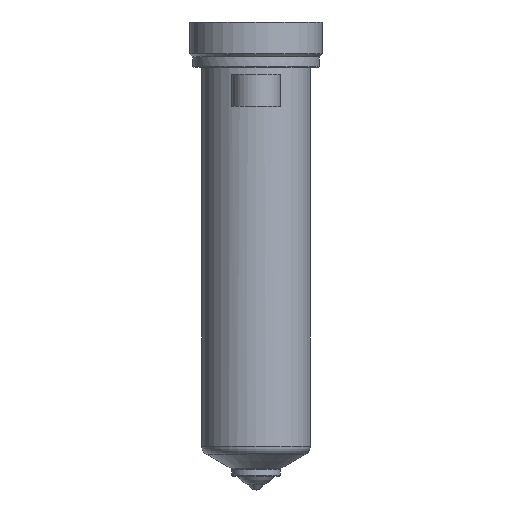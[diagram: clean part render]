
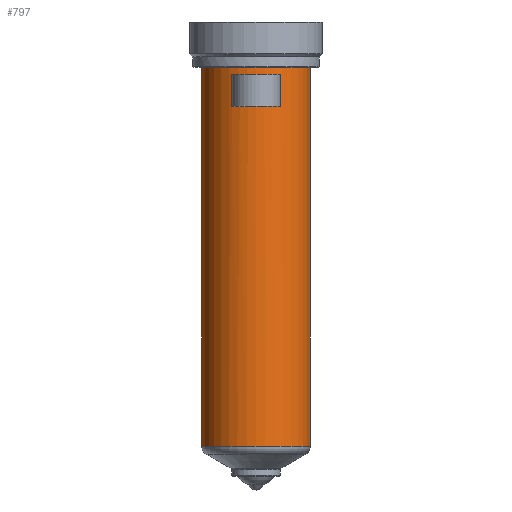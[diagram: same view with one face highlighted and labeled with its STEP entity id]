
A CAD part, top view. The second image highlights one B-rep face of the part: STEP entity #797.
In plain terms, the highlighted cylindrical face has radius 18 mm (diameter 36 mm), a partial arc.
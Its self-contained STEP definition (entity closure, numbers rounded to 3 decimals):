
#187=DIRECTION('',(0.,-1.,0.));
#188=VECTOR('',#187,125.506);
#189=CARTESIAN_POINT('',(18.,0.,0.));
#190=LINE('',#189,#188);
#191=CARTESIAN_POINT('',(0.,-125.506,0.));
#192=DIRECTION('',(0.,1.,0.));
#193=DIRECTION('',(-1.,0.,0.));
#194=AXIS2_PLACEMENT_3D('',#191,#192,#193);
#196=DIRECTION('',(0.,1.,0.));
#197=VECTOR('',#196,125.506);
#198=CARTESIAN_POINT('',(-18.,-125.506,0.));
#199=LINE('',#198,#197);
#200=CARTESIAN_POINT('',(0.,0.,0.));
#201=DIRECTION('',(0.,1.,0.));
#202=DIRECTION('',(-1.,0.,0.));
#203=AXIS2_PLACEMENT_3D('',#200,#201,#202);
#367=DIRECTION('',(0.,-1.,0.));
#368=VECTOR('',#367,10.5);
#369=CARTESIAN_POINT('',(-8.,-2.5,16.125));
#370=LINE('',#369,#368);
#371=CARTESIAN_POINT('',(0.,-13.,0.));
#372=DIRECTION('',(0.,1.,0.));
#373=DIRECTION('',(-0.444,0.,0.896));
#374=AXIS2_PLACEMENT_3D('',#371,#372,#373);
#397=CARTESIAN_POINT('',(0.,-2.5,0.));
#398=DIRECTION('',(0.,-1.,0.));
#399=DIRECTION('',(0.444,0.,0.896));
#400=AXIS2_PLACEMENT_3D('',#397,#398,#399);
#415=DIRECTION('',(0.,-1.,0.));
#416=VECTOR('',#415,10.5);
#417=CARTESIAN_POINT('',(8.,-2.5,16.125));
#418=LINE('',#417,#416);
#476=CARTESIAN_POINT('',(-18.,0.,0.));
#477=CARTESIAN_POINT('',(18.,0.,0.));
#478=VERTEX_POINT('',#476);
#479=VERTEX_POINT('',#477);
#488=CARTESIAN_POINT('',(-8.,-2.5,16.125));
#489=VERTEX_POINT('',#488);
#490=CARTESIAN_POINT('',(8.,-2.5,16.125));
#491=VERTEX_POINT('',#490);
#524=CARTESIAN_POINT('',(18.,-125.506,0.));
#525=VERTEX_POINT('',#524);
#534=CARTESIAN_POINT('',(-18.,-125.506,0.));
#535=VERTEX_POINT('',#534);
#556=CARTESIAN_POINT('',(-8.,-13.,16.125));
#557=CARTESIAN_POINT('',(8.,-13.,16.125));
#558=VERTEX_POINT('',#556);
#559=VERTEX_POINT('',#557);
#775=CARTESIAN_POINT('',(0.,16.4,0.));
#776=DIRECTION('',(0.,-1.,0.));
#777=DIRECTION('',(-1.,0.,0.));
#778=AXIS2_PLACEMENT_3D('',#775,#776,#777);
#779=CYLINDRICAL_SURFACE('',#778,18.);
#780=ORIENTED_EDGE('',*,*,#769,.T.);
#782=ORIENTED_EDGE('',*,*,#781,.F.);
#783=ORIENTED_EDGE('',*,*,#765,.T.);
#784=ORIENTED_EDGE('',*,*,#755,.T.);
#785=EDGE_LOOP('',(#780,#782,#783,#784));
#786=FACE_OUTER_BOUND('',#785,.F.);
#788=ORIENTED_EDGE('',*,*,#787,.T.);
#790=ORIENTED_EDGE('',*,*,#789,.T.);
#792=ORIENTED_EDGE('',*,*,#791,.F.);
#794=ORIENTED_EDGE('',*,*,#793,.T.);
#795=EDGE_LOOP('',(#788,#790,#792,#794));
#796=FACE_BOUND('',#795,.F.);
#797=ADVANCED_FACE('',(#786,#796),#779,.T.);
#195=CIRCLE('',#194,18.);
#204=CIRCLE('',#203,18.);
#375=CIRCLE('',#374,18.);
#401=CIRCLE('',#400,18.);
#755=EDGE_CURVE('',#478,#479,#204,.T.);
#765=EDGE_CURVE('',#535,#478,#199,.T.);
#769=EDGE_CURVE('',#479,#525,#190,.T.);
#781=EDGE_CURVE('',#535,#525,#195,.T.);
#787=EDGE_CURVE('',#489,#558,#370,.T.);
#789=EDGE_CURVE('',#558,#559,#375,.T.);
#791=EDGE_CURVE('',#491,#559,#418,.T.);
#793=EDGE_CURVE('',#491,#489,#401,.T.);
